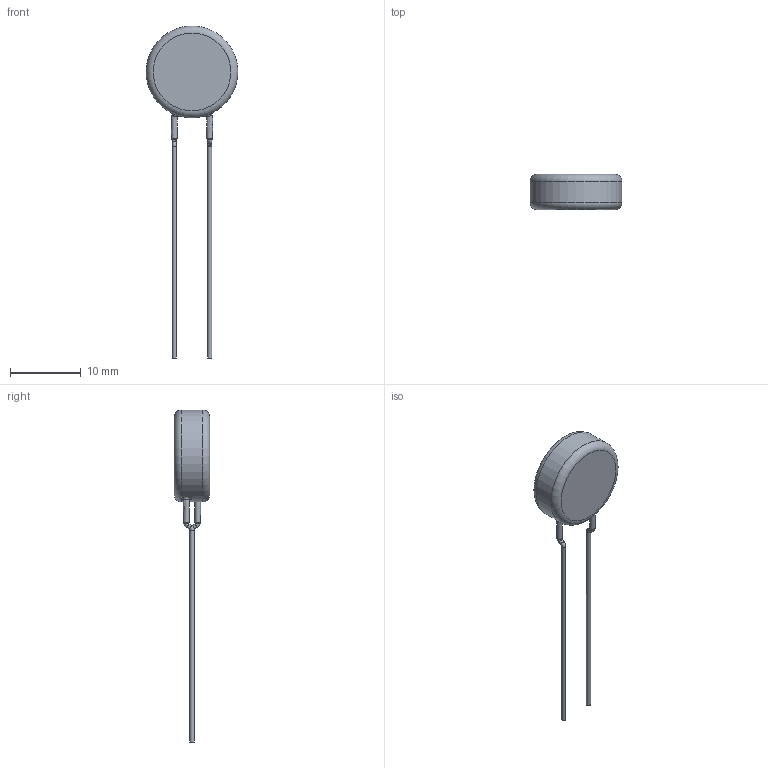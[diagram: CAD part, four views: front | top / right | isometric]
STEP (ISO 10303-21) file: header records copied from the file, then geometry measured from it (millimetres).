
FILE_DESCRIPTION(/* description */ (''),/* implementation_level */ '2;1');
FILE_NAME(/* name */ 'I:\Marketing\M6t1\3D-Models\Zchng-Werk-3\Upload for homepage\BCC\AY2\Inline Dia 0,6 LS 5\AY2472K49Y5US63V5.stp',/* time_stamp */ '2020-11-06T09:01:59+01:00',/* author */ ('truediger'),/* organization */ (''),/* preprocessor_version */ 'ST-DEVELOPER v18',/* originating_system */ 'Autodesk Inventor 2020',/* authorisation */ '');
FILE_SCHEMA (('AUTOMOTIVE_DESIGN { 1 0 10303 214 3 1 1 }'));
Length unit declared in the file: millimetre
Products named in the file (1): Bauteil1
Bounding box: 13 x 5 x 47 mm (x, y, z)
Volume: 668.3 mm3; surface area: 569.3 mm2
Topology: 1 solids, 1 shells, 27 faces, 71 edges, 50 vertices
Faces by surface type: cylinder 9, torus 6, plane 6, bspline 6
Full cylindrical faces by diameter (mm): 0.6 x4, 13 x1
Entity records: 2459 total; most frequent: CARTESIAN_POINT 1736, ORIENTED_EDGE 142, DIRECTION 137, EDGE_CURVE 71, AXIS2_PLACEMENT_3D 66, VERTEX_POINT 50, CIRCLE 42, EDGE_LOOP 31
